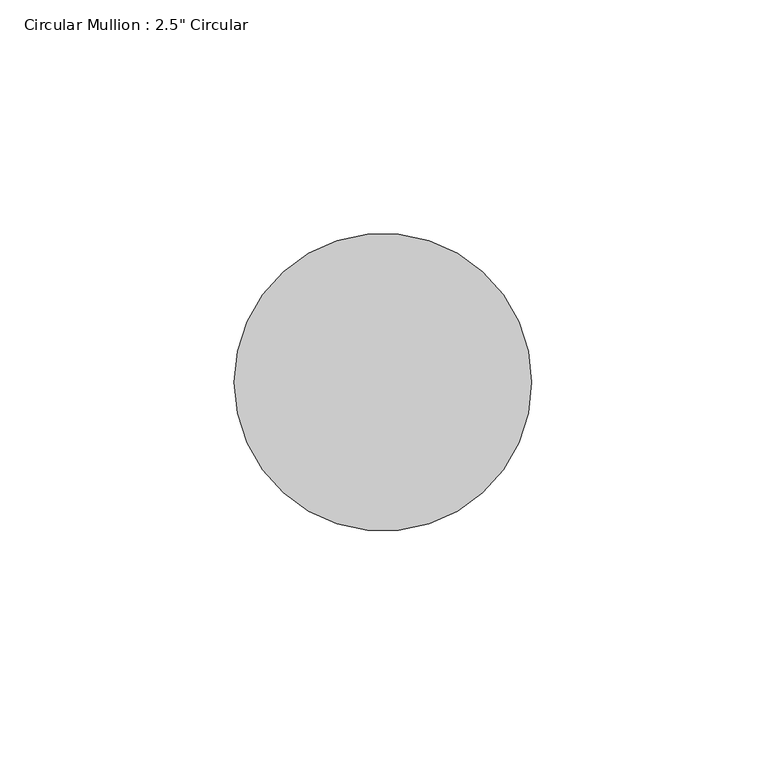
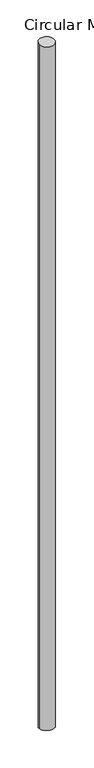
"""IFC4 building model written with IfcOpenShell, lengths in millimetres: member geometry."""

from ifc_helpers import new_model, si_unit, frame, origin, origin_with_axes, place, context, project, spatial, ellipse_curve, source, transform, mapped, element, save
from ifc_brep_helpers import plane_surface, cylinder_surface, advanced_brep


def member_33878ae9(model_context):
    return source(origin(), model_context, "Body", "AdvancedBrep", [
        advanced_brep(
        [(-31.75, 0.0, 0.3218809), (31.75, 0.0, -0.3218809), (31.75, 0.0, -3046.497181), (-31.75, 0.0, -3047.1137072)],
        [
            (0, 1, ellipse_curve(frame((0.0, 0.0, 0.0), z_axis=(-0.01012734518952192, 0.04466005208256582, -0.9989509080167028), x_axis=(-0.22091841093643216, 0.9742165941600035, 0.04579392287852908)), 31.7833437, 31.75)),
            (1, 2),
            (2, 3, ellipse_curve(frame((0.0, 0.0, -3046.8054441), z_axis=(-0.009690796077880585, 0.06056138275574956, 0.998117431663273), x_axis=(0.15770854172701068, -0.9855792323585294, 0.061331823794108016)), 31.8098843, 31.75)),
            (3, 0),
            (1, 0, ellipse_curve(frame((0.0, 0.0, 0.0), z_axis=(-0.01012734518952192, 0.04466005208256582, -0.9989509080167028), x_axis=(-0.22091841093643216, 0.9742165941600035, 0.04579392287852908)), 31.7833437, 31.75)),
            (3, 2, ellipse_curve(frame((0.0, 0.0, -3046.8054441), z_axis=(-0.009690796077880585, 0.06056138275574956, 0.998117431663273), x_axis=(0.15770854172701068, -0.9855792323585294, 0.061331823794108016)), 31.8098843, 31.75)),
        ],
        [
            cylinder_surface(origin_with_axes(), 31.75),
            plane_surface(frame((297.2530637, 67.4066474, 0.0), z_axis=(0.01012734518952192, -0.04466005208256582, 0.9989509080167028), x_axis=(0.22091841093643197, -0.9742165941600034, -0.04579392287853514))),
            plane_surface(frame((300.9711488, 48.1602284, -3046.8054441), z_axis=(0.009690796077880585, -0.06056138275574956, -0.998117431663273), x_axis=(0.15770854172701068, -0.9855792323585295, 0.06133182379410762))),
        ],
        [
            (0, [[1, 2, 3, 4]]),
            (0, [[5, -4, 6, -2]]),
            (1, [[-1, -5]]),
            (2, [[-6, -3]]),
        ],
    ),
    ])


if __name__ == "__main__":
    model = new_model("IFC4")
    model_context = context("Model", 3, world=origin())
    ifc_project = project(units=[si_unit("LENGTHUNIT", "METRE", prefix="MILLI")], contexts=[model_context])
    site = spatial("IfcSite", under=ifc_project)
    building = spatial("IfcBuilding", under=site)
    placement = place(None, origin())
    member_shape = member_33878ae9(model_context)
    element("IfcMember", 1, ObjectType="Circular Mullion : 2.5\" Circular", at=placement, inside=building, context=model_context, shape_type="MappedRepresentation", body=[
        mapped(member_shape, transform((0.0, 0.0, 0.0), x_axis=(1.0, 0.0, 0.0), y_axis=(0.0, 1.0, 0.0), z_axis=(0.0, 0.0, 1.0))),
    ])
    save(model, "model.ifc")
